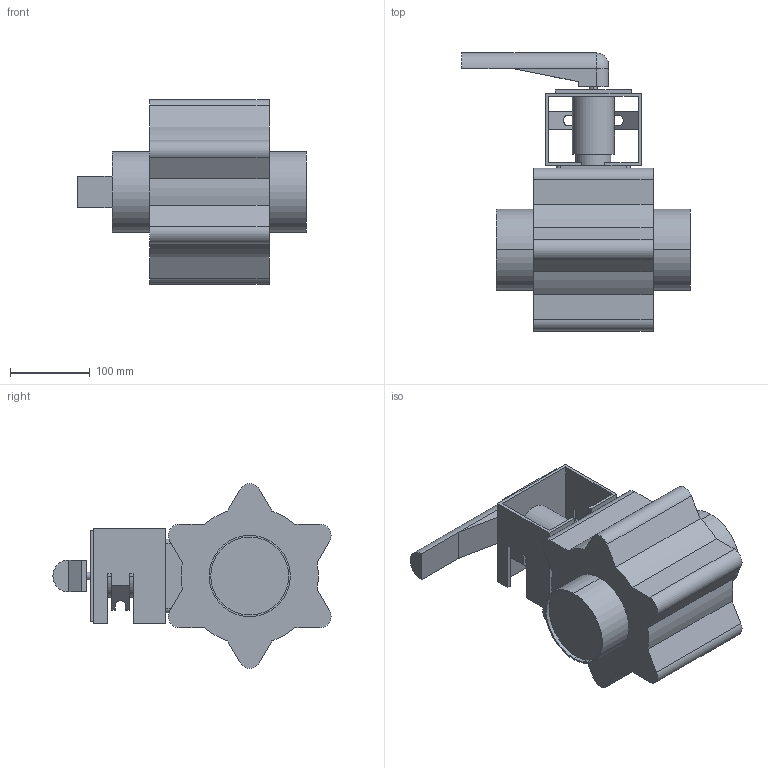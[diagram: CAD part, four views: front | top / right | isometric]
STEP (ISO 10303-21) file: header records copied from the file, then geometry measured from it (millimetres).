
FILE_DESCRIPTION(('Creo Elements/Direct Modeling STEP Export'),'2;1');
FILE_NAME('BLV1-4T-HL-12S.stp','2019-05-10T 8:30:51',(''),(''),'Creo Elements/Direct Modeling STEP processor for AP214 (Solid Model)','Creo Elements/Direct Modeling 19.0F 14-Feb-2017 (C) Parametric Technology GmbH','');
FILE_SCHEMA(('AUTOMOTIVE_DESIGN { 1 0 10303 214 1 1 1 1 }'));
Length unit declared in the file: millimetre
Products named in the file (2): BLV1-4T-HL-12S
Assembly tree (1 placements, depth 2):
  BLV1-4T-HL-12S
    BLV1-4T-HL-12S
Bounding box: 286.5 x 348.4 x 231 mm (x, y, z)
Volume: 5774573.7 mm3; surface area: 325551.9 mm2
Topology: 1 solids, 1 shells, 123 faces, 335 edges, 221 vertices
Faces by surface type: plane 82, cylinder 40, torus 1
Entity records: 3794 total; most frequent: CARTESIAN_POINT 692, ORIENTED_EDGE 670, DIRECTION 600, EDGE_CURVE 335, VECTOR 238, LINE 238, VERTEX_POINT 221, AXIS2_PLACEMENT_3D 181
